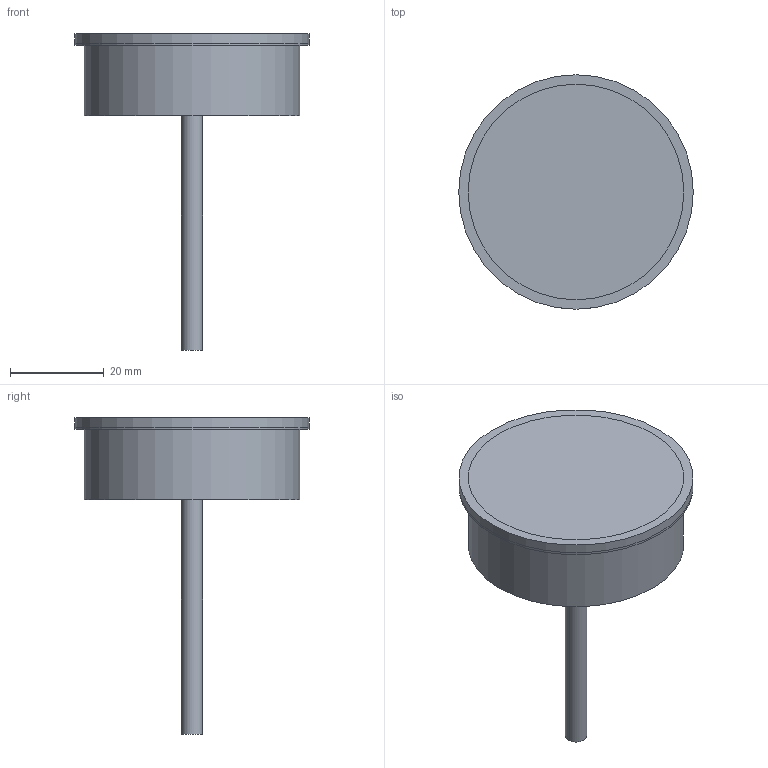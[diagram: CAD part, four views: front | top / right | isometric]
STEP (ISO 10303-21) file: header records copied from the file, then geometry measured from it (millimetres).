
FILE_DESCRIPTION(('FreeCAD Model'),'2;1');
FILE_NAME('Open CASCADE Shape Model','2024-09-27T12:04:33',( 'Thomas Reinhold'),('Eickmann Elektronik GmbH&.Co'), 'Open CASCADE STEP processor 7.6','FreeCAD','Unknown');
FILE_SCHEMA(('AUTOMOTIVE_DESIGN { 1 0 10303 214 1 1 1 1 }'));
Length unit declared in the file: millimetre
Products named in the file (6): Unnamed; Körper; Pad; Pad001; Chamfer; Pad002
Assembly tree (5 placements, depth 2):
  Unnamed
    Körper
    Pad
    Pad001
    Chamfer
    Pad002
Bounding box: 50 x 50 x 67.5 mm (x, y, z)
Volume: 144950.7 mm3; surface area: 32287.1 mm2
Topology: 5 solids, 5 shells, 30 faces, 39 edges, 25 vertices
Faces by surface type: plane 16, cylinder 11, cone 3
Full cylindrical faces by diameter (mm): 4.5 x2, 46 x5, 50 x4
Entity records: 768 total; most frequent: DIRECTION 136, CARTESIAN_POINT 100, ORIENTED_EDGE 78, AXIS2_PLACEMENT_3D 61, EDGE_CURVE 39, FACE_BOUND 36, EDGE_LOOP 36, ADVANCED_FACE 30
